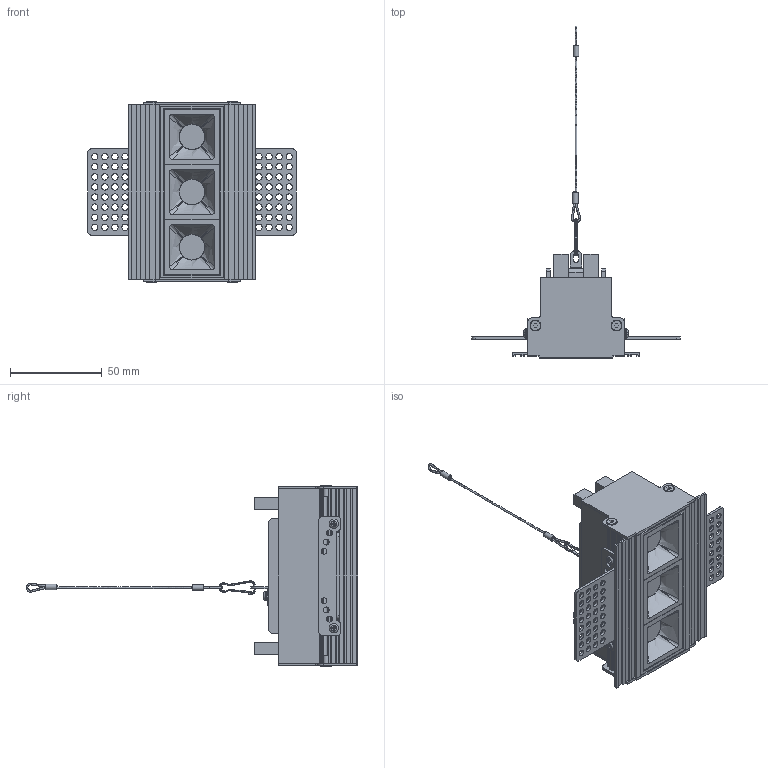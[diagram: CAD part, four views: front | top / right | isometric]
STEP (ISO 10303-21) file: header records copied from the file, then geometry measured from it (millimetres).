
FILE_DESCRIPTION(/* description */ (''),/* implementation_level */ '2;1');
FILE_NAME(/* name */ '010180B03.stp',/* time_stamp */ '2020-01-11T08:12:16+08:00',/* author */ (''),/* organization */ (''),/* preprocessor_version */ 'ST-DEVELOPER v14',/* originating_system */ 'SIEMENS PLM Software NX 8.0',/* authorisation */ '');
FILE_SCHEMA (('AUTOMOTIVE_DESIGN { 1 0 10303 214 3 1 1 1 }'));
Products named in the file (1): Admi15C80392x1fn
Bounding box: 113.7 x 180.93 x 99 mm (x, y, z)
Volume: 106364.7 mm3; surface area: 113017.3 mm2
Topology: 39 solids, 39 shells, 3024 faces, 7414 edges, 4498 vertices
Faces by surface type: bspline 1445, plane 1037, cylinder 404, cone 73, torus 45, revolution 12, sphere 8
Full cylindrical faces by diameter (mm): 2 x4, 2.1 x6, 2.3 x4, 2.5 x6, 2.6 x3, 3 x17, 3.2 x17, 3.3 x2, 3.5 x64, 4 x4, 5 x5, 5.5 x6, 5.9 x4, 14.1 x3
Entity records: 134313 total; most frequent: CARTESIAN_POINT 71161, ORIENTED_EDGE 14116, DIRECTION 7870, EDGE_CURVE 7058, VERTEX_POINT 4415, EDGE_LOOP 3584, B_SPLINE_CURVE_WITH_KNOTS 3294, ADVANCED_FACE 3024
